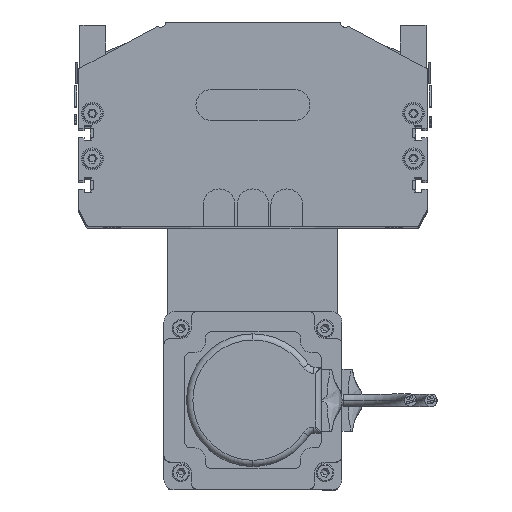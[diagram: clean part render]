
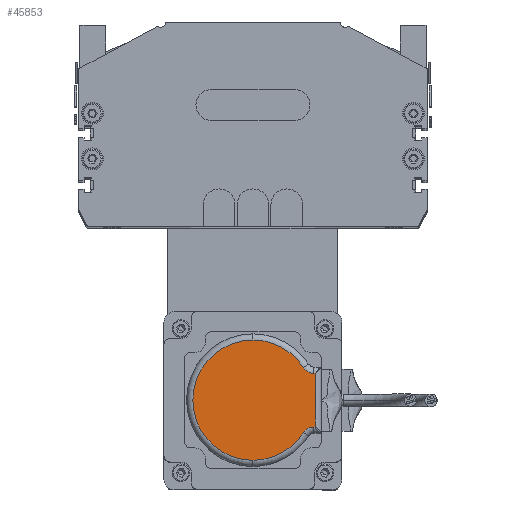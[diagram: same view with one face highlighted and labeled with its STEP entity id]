
A CAD part, top view. The second image highlights one B-rep face of the part: STEP entity #45853.
In plain terms, the highlighted planar face has unit normal (0, 0, 1).
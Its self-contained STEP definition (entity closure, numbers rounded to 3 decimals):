
#1942 = CARTESIAN_POINT ( 'NONE',  ( 4., 33., 26. ) ) ;
#2048 = DIRECTION ( 'NONE',  ( 1., 0., 0. ) ) ;
#2049 = DIRECTION ( 'NONE',  ( 0., 0., 1. ) ) ;
#2050 = CARTESIAN_POINT ( 'NONE',  ( 33., 33., 26. ) ) ;
#2051 = AXIS2_PLACEMENT_3D ( 'NONE', #2050, #2049, #2048 ) ;
#2052 = CIRCLE ( 'NONE', #2051, 29. ) ;
#45328 = EDGE_CURVE ( 'NONE', #45386, #45366, #2052, .T. ) ;
#45366 = VERTEX_POINT ( 'NONE', #1942 ) ;
#45374 = VERTEX_POINT ( 'NONE', #71393 ) ;
#45386 = VERTEX_POINT ( 'NONE', #71297 ) ;
#45685 = EDGE_CURVE ( 'NONE', #45366, #45374, #71933, .T. ) ;
#45841 = EDGE_CURVE ( 'NONE', #45386, #45874, #72417, .T. ) ;
#45843 = ORIENTED_EDGE ( 'NONE', *, *, #45685, .T. ) ;
#45844 = ORIENTED_EDGE ( 'NONE', *, *, #45328, .T. ) ;
#45845 = EDGE_CURVE ( 'NONE', #45374, #46118, #72420, .T. ) ;
#45846 = EDGE_CURVE ( 'NONE', #46115, #45874, #72419, .T. ) ;
#45850 = ORIENTED_EDGE ( 'NONE', *, *, #45924, .F. ) ;
#45853 = ADVANCED_FACE ( 'NONE', ( #72404 ), #72369, .T. ) ;
#45854 = ORIENTED_EDGE ( 'NONE', *, *, #45845, .T. ) ;
#45874 = VERTEX_POINT ( 'NONE', #72657 ) ;
#45876 = VERTEX_POINT ( 'NONE', #72577 ) ;
#45877 = VERTEX_POINT ( 'NONE', #72656 ) ;
#45913 = EDGE_LOOP ( 'NONE', ( #46090, #45844, #45843, #45854, #45850, #46099, #46027, #46034 ) ) ;
#45924 = EDGE_CURVE ( 'NONE', #45877, #46118, #72669, .T. ) ;
#46027 = ORIENTED_EDGE ( 'NONE', *, *, #46087, .T. ) ;
#46034 = ORIENTED_EDGE ( 'NONE', *, *, #45846, .T. ) ;
#46087 = EDGE_CURVE ( 'NONE', #45876, #46115, #72999, .T. ) ;
#46090 = ORIENTED_EDGE ( 'NONE', *, *, #45841, .F. ) ;
#46091 = EDGE_CURVE ( 'NONE', #45877, #45876, #73060, .T. ) ;
#46099 = ORIENTED_EDGE ( 'NONE', *, *, #46091, .T. ) ;
#46115 = VERTEX_POINT ( 'NONE', #72926 ) ;
#46118 = VERTEX_POINT ( 'NONE', #73083 ) ;
#71297 = CARTESIAN_POINT ( 'NONE',  ( 17.257, 57.355, 26. ) ) ;
#71393 = CARTESIAN_POINT ( 'NONE',  ( 62., 33., 26. ) ) ;
#71930 = CARTESIAN_POINT ( 'NONE',  ( 33., 33., 26. ) ) ;
#71933 = CIRCLE ( 'NONE', #72019, 29. ) ;
#72019 = AXIS2_PLACEMENT_3D ( 'NONE', #71930, #72140, #72139 ) ;
#72139 = DIRECTION ( 'NONE',  ( 1., 0., 0. ) ) ;
#72140 = DIRECTION ( 'NONE',  ( 0., 0., 1. ) ) ;
#72359 = DIRECTION ( 'NONE',  ( 1., 0., 0. ) ) ;
#72360 = DIRECTION ( 'NONE',  ( 0., 0., 1. ) ) ;
#72366 = AXIS2_PLACEMENT_3D ( 'NONE', #72451, #72360, #72359 ) ;
#72367 = DIRECTION ( 'NONE',  ( 0., -1., 0. ) ) ;
#72368 = VECTOR ( 'NONE', #72367, 1000. ) ;
#72369 = PLANE ( 'NONE',  #72366 ) ;
#72370 = DIRECTION ( 'NONE',  ( 1., 0., 0. ) ) ;
#72371 = DIRECTION ( 'NONE',  ( 0., 0., 1. ) ) ;
#72372 = CARTESIAN_POINT ( 'NONE',  ( 33., 33., 26. ) ) ;
#72404 = FACE_OUTER_BOUND ( 'NONE', #45913, .T. ) ;
#72413 = DIRECTION ( 'NONE',  ( 1., 0., 0. ) ) ;
#72414 = DIRECTION ( 'NONE',  ( 0., 0., 1. ) ) ;
#72415 = CARTESIAN_POINT ( 'NONE',  ( 14., 62.394, 26. ) ) ;
#72416 = AXIS2_PLACEMENT_3D ( 'NONE', #72415, #72414, #72413 ) ;
#72417 = CIRCLE ( 'NONE', #72416, 6. ) ;
#72418 = CARTESIAN_POINT ( 'NONE',  ( 20., 33., 26. ) ) ;
#72419 = LINE ( 'NONE', #72418, #72368 ) ;
#72420 = CIRCLE ( 'NONE', #72421, 29. ) ;
#72421 = AXIS2_PLACEMENT_3D ( 'NONE', #72372, #72371, #72370 ) ;
#72451 = CARTESIAN_POINT ( 'NONE',  ( 33., 33., 26. ) ) ;
#72567 = DIRECTION ( 'NONE',  ( 1., 0., 0. ) ) ;
#72568 = AXIS2_PLACEMENT_3D ( 'NONE', #72613, #72619, #72567 ) ;
#72577 = CARTESIAN_POINT ( 'NONE',  ( 46., 63., 26. ) ) ;
#72613 = CARTESIAN_POINT ( 'NONE',  ( 52., 62.394, 26. ) ) ;
#72619 = DIRECTION ( 'NONE',  ( 0., 0., 1. ) ) ;
#72656 = CARTESIAN_POINT ( 'NONE',  ( 46., 62.394, 26. ) ) ;
#72657 = CARTESIAN_POINT ( 'NONE',  ( 20., 62.394, 26. ) ) ;
#72669 = CIRCLE ( 'NONE', #72568, 6. ) ;
#72926 = CARTESIAN_POINT ( 'NONE',  ( 20., 63., 26. ) ) ;
#72970 = DIRECTION ( 'NONE',  ( -1., 0., 0. ) ) ;
#72971 = VECTOR ( 'NONE', #72970, 1000. ) ;
#72972 = CARTESIAN_POINT ( 'NONE',  ( 17.5, 63., 26. ) ) ;
#72999 = LINE ( 'NONE', #72972, #72971 ) ;
#73057 = DIRECTION ( 'NONE',  ( 0., 1., 0. ) ) ;
#73058 = VECTOR ( 'NONE', #73057, 1000. ) ;
#73059 = CARTESIAN_POINT ( 'NONE',  ( 46., 33., 26. ) ) ;
#73060 = LINE ( 'NONE', #73059, #73058 ) ;
#73083 = CARTESIAN_POINT ( 'NONE',  ( 48.743, 57.355, 26. ) ) ;
